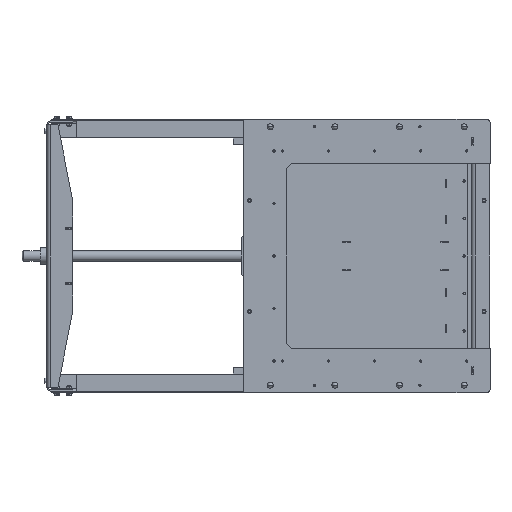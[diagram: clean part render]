
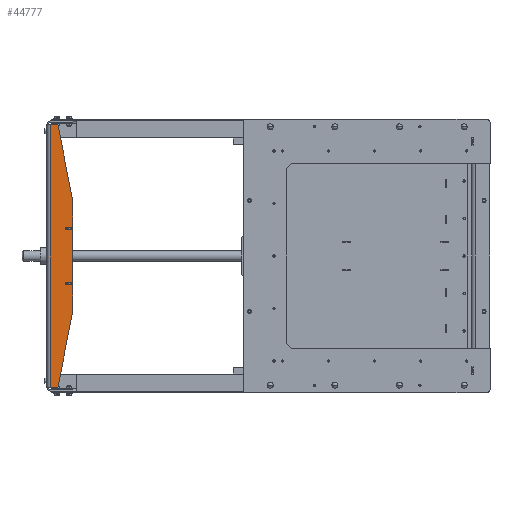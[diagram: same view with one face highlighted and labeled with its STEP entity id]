
A CAD part, left-side view. The second image highlights one B-rep face of the part: STEP entity #44777.
In plain terms, the highlighted planar face has unit normal (-1, 0, 0).
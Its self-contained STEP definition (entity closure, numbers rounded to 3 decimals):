
#726 = CARTESIAN_POINT ( 'NONE',  ( 0., 898., 0. ) ) ;
#2468 = CARTESIAN_POINT ( 'NONE',  ( 0., 848., -77.5 ) ) ;
#3352 = DIRECTION ( 'NONE',  ( 0., -1., 0. ) ) ;
#4357 = DIRECTION ( 'NONE',  ( 0., 1., 0. ) ) ;
#4915 = ORIENTED_EDGE ( 'NONE', *, *, #6832, .T. ) ;
#4984 = CARTESIAN_POINT ( 'NONE',  ( 0., 847.8, -72.5 ) ) ;
#6251 = VECTOR ( 'NONE', #24007, 1000. ) ;
#6832 = EDGE_CURVE ( 'NONE', #62514, #80244, #73667, .T. ) ;
#7116 = ORIENTED_EDGE ( 'NONE', *, *, #58285, .F. ) ;
#10170 = EDGE_CURVE ( 'NONE', #46754, #54607, #43142, .T. ) ;
#10471 = EDGE_CURVE ( 'NONE', #54607, #15837, #55604, .T. ) ;
#12963 = EDGE_CURVE ( 'NONE', #45426, #76261, #46544, .T. ) ;
#12972 = CARTESIAN_POINT ( 'NONE',  ( 0., 847.8, 72.5 ) ) ;
#13687 = VECTOR ( 'NONE', #91574, 1000. ) ;
#14102 = VECTOR ( 'NONE', #3352, 1000. ) ;
#14422 = VERTEX_POINT ( 'NONE', #26266 ) ;
#15123 = VECTOR ( 'NONE', #21086, 1000. ) ;
#15238 = CARTESIAN_POINT ( 'NONE',  ( 0., 828., -77.5 ) ) ;
#15837 = VERTEX_POINT ( 'NONE', #52488 ) ;
#15935 = CARTESIAN_POINT ( 'NONE',  ( 0., 828., -150. ) ) ;
#16616 = ORIENTED_EDGE ( 'NONE', *, *, #18177, .F. ) ;
#18177 = EDGE_CURVE ( 'NONE', #72180, #42942, #54013, .T. ) ;
#18300 = EDGE_CURVE ( 'NONE', #76261, #73466, #37964, .T. ) ;
#21021 = VECTOR ( 'NONE', #25441, 1000. ) ;
#21086 = DIRECTION ( 'NONE',  ( 0., 0., -1. ) ) ;
#21817 = PLANE ( 'NONE',  #35116 ) ;
#22563 = ORIENTED_EDGE ( 'NONE', *, *, #10170, .T. ) ;
#23817 = EDGE_CURVE ( 'NONE', #80244, #33565, #83176, .T. ) ;
#24007 = DIRECTION ( 'NONE',  ( 0., 1., 0. ) ) ;
#24426 = LINE ( 'NONE', #44237, #14102 ) ;
#25441 = DIRECTION ( 'NONE',  ( 0., -1., 0. ) ) ;
#26266 = CARTESIAN_POINT ( 'NONE',  ( 0., 828., -72.5 ) ) ;
#29328 = CARTESIAN_POINT ( 'NONE',  ( 0., 847.8, 72.5 ) ) ;
#32251 = CARTESIAN_POINT ( 'NONE',  ( 0., 828., 72.5 ) ) ;
#32597 = ORIENTED_EDGE ( 'NONE', *, *, #72360, .T. ) ;
#32611 = LINE ( 'NONE', #76637, #49099 ) ;
#33565 = VERTEX_POINT ( 'NONE', #58510 ) ;
#34480 = VECTOR ( 'NONE', #90196, 1000. ) ;
#35116 = AXIS2_PLACEMENT_3D ( 'NONE', #726, #64896, #78485 ) ;
#35653 = DIRECTION ( 'NONE',  ( 0., 1., 0. ) ) ;
#36067 = ORIENTED_EDGE ( 'NONE', *, *, #80217, .T. ) ;
#36174 = EDGE_CURVE ( 'NONE', #73466, #66248, #44339, .T. ) ;
#36327 = ORIENTED_EDGE ( 'NONE', *, *, #10471, .T. ) ;
#37419 = EDGE_CURVE ( 'NONE', #46754, #14422, #51494, .T. ) ;
#37964 = LINE ( 'NONE', #46370, #71629 ) ;
#39517 = CARTESIAN_POINT ( 'NONE',  ( 0., 828., 355. ) ) ;
#39894 = EDGE_LOOP ( 'NONE', ( #32597, #70864, #45791, #81503, #71537, #16616, #57235, #7116, #4915, #63268, #36067, #83505, #22563, #36327 ) ) ;
#40810 = VECTOR ( 'NONE', #44924, 1000. ) ;
#41691 = CARTESIAN_POINT ( 'NONE',  ( 0., 828., -355. ) ) ;
#42942 = VERTEX_POINT ( 'NONE', #46276 ) ;
#43142 = LINE ( 'NONE', #64703, #60821 ) ;
#43871 = LINE ( 'NONE', #57465, #45628 ) ;
#43925 = CARTESIAN_POINT ( 'NONE',  ( 0., 868., -355. ) ) ;
#44237 = CARTESIAN_POINT ( 'NONE',  ( 0., 828., -72.5 ) ) ;
#44339 = LINE ( 'NONE', #41691, #15123 ) ;
#44777 = ADVANCED_FACE ( 'NONE', ( #86390 ), #21817, .T. ) ;
#44924 = DIRECTION ( 'NONE',  ( 0., 0., -1. ) ) ;
#45426 = VERTEX_POINT ( 'NONE', #69721 ) ;
#45628 = VECTOR ( 'NONE', #65396, 1000. ) ;
#45791 = ORIENTED_EDGE ( 'NONE', *, *, #18300, .F. ) ;
#45838 = CARTESIAN_POINT ( 'NONE',  ( 0., 828., -355. ) ) ;
#46226 = CARTESIAN_POINT ( 'NONE',  ( 0., 828., 150. ) ) ;
#46276 = CARTESIAN_POINT ( 'NONE',  ( 0., 888., -355. ) ) ;
#46370 = CARTESIAN_POINT ( 'NONE',  ( 0., 802.372, 18.659 ) ) ;
#46544 = LINE ( 'NONE', #39517, #21021 ) ;
#46754 = VERTEX_POINT ( 'NONE', #32251 ) ;
#49099 = VECTOR ( 'NONE', #90206, 1000. ) ;
#50788 = CARTESIAN_POINT ( 'NONE',  ( 0., 847.8, -77.5 ) ) ;
#51494 = LINE ( 'NONE', #45838, #40810 ) ;
#52488 = CARTESIAN_POINT ( 'NONE',  ( 0., 847.8, 77.5 ) ) ;
#54013 = LINE ( 'NONE', #83481, #88058 ) ;
#54607 = VERTEX_POINT ( 'NONE', #29328 ) ;
#55604 = LINE ( 'NONE', #12972, #81597 ) ;
#56474 = LINE ( 'NONE', #62562, #34480 ) ;
#57235 = ORIENTED_EDGE ( 'NONE', *, *, #79112, .F. ) ;
#57465 = CARTESIAN_POINT ( 'NONE',  ( 0., 888., 0. ) ) ;
#58285 = EDGE_CURVE ( 'NONE', #62514, #69319, #32611, .T. ) ;
#58510 = CARTESIAN_POINT ( 'NONE',  ( 0., 847.8, -72.5 ) ) ;
#60821 = VECTOR ( 'NONE', #35653, 1000. ) ;
#61354 = DIRECTION ( 'NONE',  ( 0., -0.192, -0.981 ) ) ;
#61912 = CARTESIAN_POINT ( 'NONE',  ( 0., 828., 77.5 ) ) ;
#62514 = VERTEX_POINT ( 'NONE', #15238 ) ;
#62562 = CARTESIAN_POINT ( 'NONE',  ( 0., 848., 77.5 ) ) ;
#62666 = CARTESIAN_POINT ( 'NONE',  ( 0., 868., 355. ) ) ;
#63268 = ORIENTED_EDGE ( 'NONE', *, *, #23817, .T. ) ;
#64703 = CARTESIAN_POINT ( 'NONE',  ( 0., 828., 72.5 ) ) ;
#64896 = DIRECTION ( 'NONE',  ( -1., 0., 0. ) ) ;
#65396 = DIRECTION ( 'NONE',  ( 0., 0., -1. ) ) ;
#66241 = VECTOR ( 'NONE', #67261, 1000. ) ;
#66248 = VERTEX_POINT ( 'NONE', #61912 ) ;
#67261 = DIRECTION ( 'NONE',  ( 0., 0.192, -0.981 ) ) ;
#69319 = VERTEX_POINT ( 'NONE', #15935 ) ;
#69721 = CARTESIAN_POINT ( 'NONE',  ( 0., 888., 355. ) ) ;
#70864 = ORIENTED_EDGE ( 'NONE', *, *, #36174, .F. ) ;
#71537 = ORIENTED_EDGE ( 'NONE', *, *, #82861, .T. ) ;
#71629 = VECTOR ( 'NONE', #61354, 1000. ) ;
#72180 = VERTEX_POINT ( 'NONE', #43925 ) ;
#72360 = EDGE_CURVE ( 'NONE', #15837, #66248, #56474, .T. ) ;
#73466 = VERTEX_POINT ( 'NONE', #46226 ) ;
#73667 = LINE ( 'NONE', #2468, #6251 ) ;
#76261 = VERTEX_POINT ( 'NONE', #62666 ) ;
#76637 = CARTESIAN_POINT ( 'NONE',  ( 0., 828., -355. ) ) ;
#78485 = DIRECTION ( 'NONE',  ( 0., -1., 0. ) ) ;
#79112 = EDGE_CURVE ( 'NONE', #69319, #72180, #88790, .T. ) ;
#80217 = EDGE_CURVE ( 'NONE', #33565, #14422, #24426, .T. ) ;
#80244 = VERTEX_POINT ( 'NONE', #50788 ) ;
#81503 = ORIENTED_EDGE ( 'NONE', *, *, #12963, .F. ) ;
#81597 = VECTOR ( 'NONE', #84155, 1000. ) ;
#82861 = EDGE_CURVE ( 'NONE', #45426, #42942, #43871, .T. ) ;
#83176 = LINE ( 'NONE', #4984, #13687 ) ;
#83481 = CARTESIAN_POINT ( 'NONE',  ( 0., 894., -355. ) ) ;
#83505 = ORIENTED_EDGE ( 'NONE', *, *, #37419, .F. ) ;
#84155 = DIRECTION ( 'NONE',  ( 0., 0., 1. ) ) ;
#86390 = FACE_OUTER_BOUND ( 'NONE', #39894, .T. ) ;
#88058 = VECTOR ( 'NONE', #4357, 1000. ) ;
#88790 = LINE ( 'NONE', #89697, #66241 ) ;
#89697 = CARTESIAN_POINT ( 'NONE',  ( 0., 802.372, -18.659 ) ) ;
#90196 = DIRECTION ( 'NONE',  ( 0., -1., 0. ) ) ;
#90206 = DIRECTION ( 'NONE',  ( 0., 0., -1. ) ) ;
#91574 = DIRECTION ( 'NONE',  ( 0., 0., 1. ) ) ;
